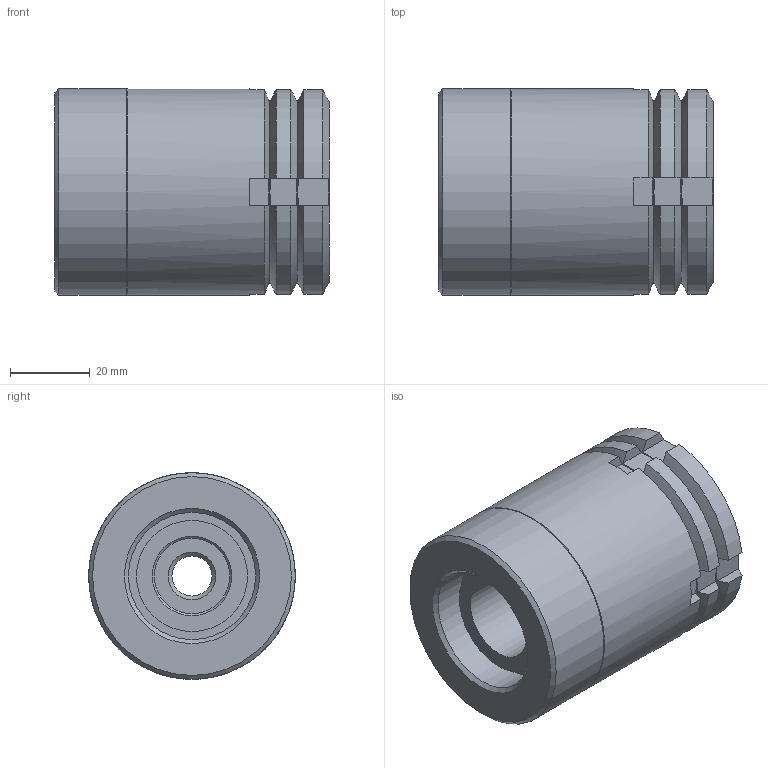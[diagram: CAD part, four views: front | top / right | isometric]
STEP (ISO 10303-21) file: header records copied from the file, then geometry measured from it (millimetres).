
FILE_DESCRIPTION( ( 'STEP AP203' ), '1' );
FILE_NAME( 'C:/Temp/Ganter_Step_05_03_2020/data/3_2/gn360/gn360_ni/Stainless Steel-Levelling set GN 360-52-M12-80-B-NI (0-0).stp', '2020-03-13T05:42:09', ( 'License CC BY-ND 4.0' ), ( 'CADENAS' ), ' ', 'PARTsolutions', ' ' );
FILE_SCHEMA( ( 'CONFIG_CONTROL_DESIGN' ) );
Length unit declared in the file: millimetre
Products named in the file (5): Stainless Steel-Levelling set GN 360-52-M12-80-B-NI (0-0); _Stainless Steel-Levelling set GN 360-52-M12-80-B-NI (0-0)-1; _Stainless Steel-Levelling set GN 360-52-M12-80-B-NI (0-0)-2; _Edelstahl-Ausgleich-Stellfuss GN 360-52-M12-80-B-NI (0-0)-4; _Stainless Steel-Levelling set GN 360-52-M12-80-B-NI (0-0)-3
Assembly tree (4 placements, depth 2):
  Stainless Steel-Levelling set GN 360-52-M12-80-B-NI (0-0)
    _Stainless Steel-Levelling set GN 360-52-M12-80-B-NI (0-0)-1
    _Stainless Steel-Levelling set GN 360-52-M12-80-B-NI (0-0)-2
    _Edelstahl-Ausgleich-Stellfuss GN 360-52-M12-80-B-NI (0-0)-4
    _Stainless Steel-Levelling set GN 360-52-M12-80-B-NI (0-0)-3
Bounding box: 69 x 52 x 52 mm (x, y, z)
Volume: 122571.8 mm3; surface area: 38186.6 mm2
Topology: 4 solids, 4 shells, 95 faces, 229 edges, 148 vertices
Faces by surface type: plane 54, cylinder 22, cone 16, sphere 2, torus 1
Full cylindrical faces by diameter (mm): 10.106 x1, 19 x1, 20 x1, 22.5 x1, 27 x1, 28 x1, 32 x1, 34 x1, 34.376 x2, 36 x1, 36.5 x1, 52 x2
Entity records: 2908 total; most frequent: CARTESIAN_POINT 752, DIRECTION 396, ORIENTED_EDGE 376, EDGE_CURVE 188, AXIS2_PLACEMENT_3D 168, EDGE_LOOP 142, VERTEX_POINT 140, FACE_OUTER_BOUND 112
